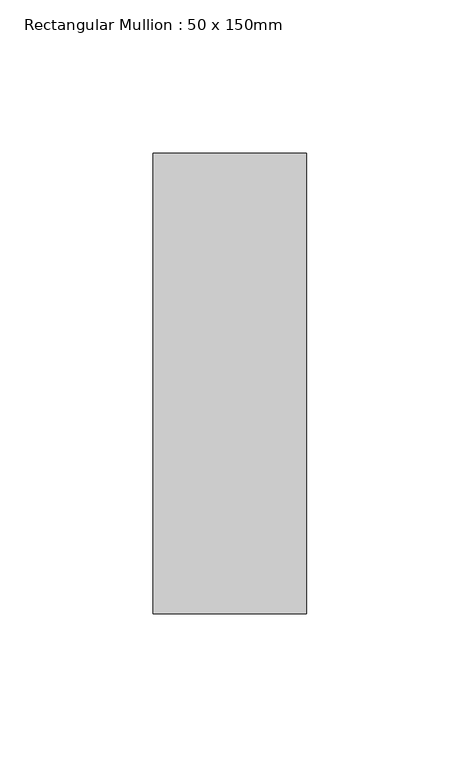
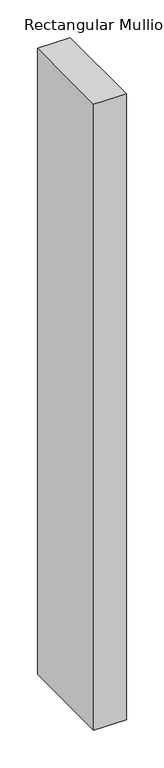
"""IFC4 building model written with IfcOpenShell, lengths in millimetres: member geometry, Rectangular Mullion : 50 x 150mm."""

import ifcopenshell
import ifcopenshell.guid

model = None  # the IFC model being written
_history = None  # IfcOwnerHistory: only IFC2X3 demands one
_inside = {}  # id of a spatial element -> (the spatial element, [elements in it])
_under = {}  # id of a project, library or spatial element -> (it, [spatial elements below it])
_declared = {}  # id of a project -> (the project, [libraries it declares])
_typed = {}  # id of a type object -> (the type object, [elements of that type])
_made_of = {}  # id of a material, layer set ... -> (it, [elements and type objects made of it])


def new_model(schema):
    """Start an empty IFC model of exactly this schema.

    Asked for "IFC4X3", IfcOpenShell would pick the latest addendum, in which some entities
    have other attributes; the version numbers below select the first issue.
    IFC2X3 requires an IfcOwnerHistory on every rooted entity: one is made here for all.
    """
    global model, _history
    if schema == "IFC4X3":
        model = ifcopenshell.file(schema_version=(4, 3, 0, 0))
    else:
        model = ifcopenshell.file(schema=schema)
    _inside.clear()
    _under.clear()
    _declared.clear()
    _typed.clear()
    _made_of.clear()
    _history = None
    if model.schema == "IFC2X3":
        org = make("IfcOrganization", Name="unknown")
        user = make(
            "IfcPersonAndOrganization",
            ThePerson=make("IfcPerson", FamilyName="unknown"),
            TheOrganization=org,
        )
        app = make(
            "IfcApplication",
            ApplicationDeveloper=org,
            Version="unknown",
            ApplicationFullName="unknown",
            ApplicationIdentifier="unknown",
        )
        _history = make(
            "IfcOwnerHistory",
            OwningUser=user,
            OwningApplication=app,
            ChangeAction="ADDED",
            CreationDate=0,
        )
    return model


def make(cls, **values):
    """One entity of the class cls with the attributes given. An attribute that is None is left unset."""
    return model.create_entity(
        cls, **{name: value for name, value in values.items() if value is not None}
    )


def rooted(cls, **values):
    """An entity with a GlobalId (a new one), such as an element, a storey or a relation."""
    return make(cls, GlobalId=ifcopenshell.guid.new(), OwnerHistory=_history, **values)


def si_unit(unit_type, name, prefix=None):
    """IfcSIUnit, for example si_unit("LENGTHUNIT", "METRE", prefix="MILLI")."""
    return make("IfcSIUnit", UnitType=unit_type, Prefix=prefix, Name=name)


def assignment(units):
    """IfcUnitAssignment: the units of a project."""
    return None if units is None else make("IfcUnitAssignment", Units=units)


def point(xyz):
    """IfcCartesianPoint."""
    return None if xyz is None else make("IfcCartesianPoint", Coordinates=xyz)


def direction(xyz):
    """IfcDirection."""
    return None if xyz is None else make("IfcDirection", DirectionRatios=xyz)


def frame(location, z_axis=None, x_axis=None):
    """IfcAxis2Placement3D, a coordinate frame: its origin and axes. An axis left out is left unset."""
    return make(
        "IfcAxis2Placement3D",
        Location=point(location),
        Axis=direction(z_axis),
        RefDirection=direction(x_axis),
    )


def origin():
    """The frame at (0, 0, 0) with its axes left unset."""
    return frame((0.0, 0.0, 0.0))


def place(relative_to, where):
    """IfcLocalPlacement: puts the frame where relative to a parent placement (None: the world)."""
    return make(
        "IfcLocalPlacement", PlacementRelTo=relative_to, RelativePlacement=where
    )


def context(
    kind, dimensions, precision=None, world=None, true_north=None, identifier=None
):
    """IfcGeometricRepresentationContext, for example the 3D "Model" context."""
    return make(
        "IfcGeometricRepresentationContext",
        ContextIdentifier=identifier,
        ContextType=kind,
        CoordinateSpaceDimension=dimensions,
        Precision=precision,
        WorldCoordinateSystem=world,
        TrueNorth=true_north,
    )


def project(units=None, contexts=None):
    """IfcProject with its units and contexts."""
    return rooted(
        "IfcProject",
        Name="project",
        RepresentationContexts=contexts,
        UnitsInContext=assignment(units),
    )


def spatial(cls, under=None, at=None, **own):
    """A site, building, storey or space (cls), placed at a placement, below another one or the project."""
    s = rooted(cls, ObjectPlacement=at, **own)
    if under is not None:
        _under.setdefault(under.id(), (under, []))[1].append(s)
    return s


def polyline(points):
    """IfcPolyline through the points."""
    return make("IfcPolyline", Points=[point(p) for p in points])


def outline(outer, holes=None, kind="AREA"):
    """IfcArbitraryClosedProfileDef: a profile drawn as a closed curve; with holes, ...WithVoids."""
    if holes is None:
        return make("IfcArbitraryClosedProfileDef", ProfileType=kind, OuterCurve=outer)
    return make(
        "IfcArbitraryProfileDefWithVoids",
        ProfileType=kind,
        OuterCurve=outer,
        InnerCurves=holes,
    )


def extrude(swept, where, along, depth):
    """IfcExtrudedAreaSolid: the profile swept, set in the frame where, extruded along a direction by depth."""
    return make(
        "IfcExtrudedAreaSolid",
        SweptArea=swept,
        Position=where,
        ExtrudedDirection=direction(along),
        Depth=depth,
    )


def shape(context_of_items, identifier, shape_type, items):
    """IfcShapeRepresentation: the items that make up one representation, for example the "Body"."""
    return make(
        "IfcShapeRepresentation",
        ContextOfItems=context_of_items,
        RepresentationIdentifier=identifier,
        RepresentationType=shape_type,
        Items=items,
    )


def source(mapping_origin, context_of_items, identifier, shape_type, items):
    """IfcRepresentationMap: a shape defined once, which mapped items show again and again."""
    return make(
        "IfcRepresentationMap",
        MappingOrigin=mapping_origin,
        MappedRepresentation=shape(context_of_items, identifier, shape_type, items),
    )


def transform(
    local_origin,
    x_axis=None,
    y_axis=None,
    z_axis=None,
    scale=None,
    scale2=None,
    scale3=None,
    uniform=True,
):
    """IfcCartesianTransformationOperator3D, or its non-uniform kind. x_axis, y_axis, z_axis: its Axis1, 2, 3."""
    if uniform:
        return make(
            "IfcCartesianTransformationOperator3D",
            Axis1=direction(x_axis),
            Axis2=direction(y_axis),
            LocalOrigin=point(local_origin),
            Scale=scale,
            Axis3=direction(z_axis),
        )
    return make(
        "IfcCartesianTransformationOperator3DnonUniform",
        Axis1=direction(x_axis),
        Axis2=direction(y_axis),
        LocalOrigin=point(local_origin),
        Scale=scale,
        Axis3=direction(z_axis),
        Scale2=scale2,
        Scale3=scale3,
    )


def mapped(mapping_source, mapping_target):
    """IfcMappedItem: shows the shape of a source again, moved by a transform."""
    return make(
        "IfcMappedItem", MappingSource=mapping_source, MappingTarget=mapping_target
    )


def made_of(thing, what):
    """Note that an element or type object is made of a material, layer set ...; save() writes the relation."""
    if what is not None:
        _made_of.setdefault(what.id(), (what, []))[1].append(thing)
    return thing


def element(
    cls,
    number,
    at=None,
    inside=None,
    cuts=None,
    type_object=None,
    material=None,
    context=None,
    identifier="Body",
    shape_type=None,
    held_by="IfcProductDefinitionShape",
    body=None,
    shapes=None,
    **own,
):
    """One element of the class cls, such as IfcWall. Its Tag is "e" and its number.

    at: its placement. inside: the storey or other place that contains it. cuts: it is an
    opening in that element (IfcRelVoidsElement). A single representation is given by context,
    identifier, shape_type and body (its items); several are given by shapes. held_by: the class
    of the entity that holds the representations. save() writes the other relations.
    """
    e = rooted(cls, Tag="e%d" % number, ObjectPlacement=at, **own)
    if body is not None:
        shapes = [shape(context, identifier, shape_type, body)]
    if shapes is not None:
        e.Representation = make(held_by, Representations=shapes)
    if inside is not None:
        _inside.setdefault(inside.id(), (inside, []))[1].append(e)
    if cuts is not None:
        rooted(
            "IfcRelVoidsElement", RelatingBuildingElement=cuts, RelatedOpeningElement=e
        )
    if type_object is not None:
        _typed.setdefault(type_object.id(), (type_object, []))[1].append(e)
    return made_of(e, material)


def aggregate(whole, parts):
    """IfcRelAggregates: a whole, such as a stair, and the parts it consists of."""
    return rooted("IfcRelAggregates", RelatingObject=whole, RelatedObjects=parts)


def save(model, path):
    """Write the relations noted so far, then the file.

    IfcRelAggregates (storeys below a building ...), IfcRelContainedInSpatialStructure (elements
    in a storey), IfcRelDefinesByType, IfcRelAssociatesMaterial and IfcRelDeclares: one each for
    every whole, place, type object, material and project.
    """
    for whole, parts in _under.values():
        aggregate(whole, parts)
    for where, things in _inside.values():
        rooted(
            "IfcRelContainedInSpatialStructure",
            RelatedElements=things,
            RelatingStructure=where,
        )
    for kind, things in _typed.values():
        rooted("IfcRelDefinesByType", RelatedObjects=things, RelatingType=kind)
    for what, things in _made_of.values():
        rooted("IfcRelAssociatesMaterial", RelatedObjects=things, RelatingMaterial=what)
    for by, libraries in _declared.values():
        rooted("IfcRelDeclares", RelatingContext=by, RelatedDefinitions=libraries)
    model.write(path)


def rectangular_mullion_50_x_150mm_b795b8ac(model_context):
    return source(origin(), model_context, "Body", "SweptSolid", [
        extrude(outline(polyline([(25.0, 75.0), (25.0, -75.0), (-25.0, -75.0), (-25.0, 75.0), (25.0, 75.0)])), frame((0.0, 0.0, -1016.6666667), z_axis=(0.0, 0.0, 1.0), x_axis=(1.0, 0.0, 0.0)), (0.0, 0.0, 1.0), 1016.6666667),
    ])


if __name__ == "__main__":
    model = new_model("IFC4")
    model_context = context("Model", 3, world=origin())
    ifc_project = project(units=[si_unit("LENGTHUNIT", "METRE", prefix="MILLI")], contexts=[model_context])
    site = spatial("IfcSite", under=ifc_project)
    building = spatial("IfcBuilding", under=site)
    placement = place(None, origin())
    rectangular_mullion_50_x_150mm_shape = rectangular_mullion_50_x_150mm_b795b8ac(model_context)
    element("IfcMember", 1, ObjectType="Rectangular Mullion : 50 x 150mm", at=placement, inside=building, context=model_context, shape_type="MappedRepresentation", body=[
        mapped(rectangular_mullion_50_x_150mm_shape, transform((0.0, 0.0, 0.0), x_axis=(1.0, 0.0, 0.0), y_axis=(0.0, 1.0, 0.0), z_axis=(0.0, 0.0, 1.0))),
    ])
    save(model, "model.ifc")
